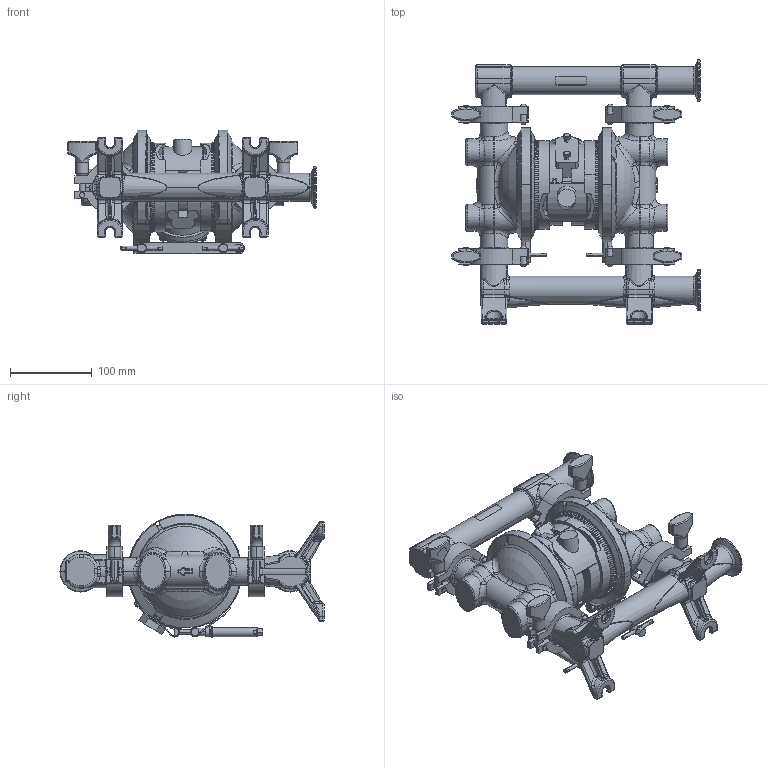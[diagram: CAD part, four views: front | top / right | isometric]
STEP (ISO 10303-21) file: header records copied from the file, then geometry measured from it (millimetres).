
FILE_DESCRIPTION((''),'2;1');
FILE_NAME('FD5111-EN-Z_PRT','2022-02-14T15:07:28',('qtmwp1'),(''),'CREO PARAMETRIC BY PTC INC, 2021072','CREO PARAMETRIC BY PTC INC, 2021072','');
FILE_SCHEMA(('CONFIG_CONTROL_DESIGN'));
Length unit declared in the file: inch
Products named in the file (1): FD5111-EN-Z_PRT
Bounding box: 303.28 x 322.82 x 151.46 mm (x, y, z)
Surface area: 499707.6 mm2 (no closed solid volume)
Topology: 0 solids, 94 shells, 2959 faces, 8432 edges, 5334 vertices
Faces by surface type: plane 864, torus 699, cylinder 662, bspline 422, cone 241, sphere 54, extrusion 9, revolution 8
Entity records: 123841 total; most frequent: CARTESIAN_POINT 52440, ORIENTED_EDGE 15463, DIRECTION 13963, EDGE_CURVE 8416, AXIS2_PLACEMENT_3D 5680, VERTEX_POINT 5334, CIRCLE 3152, EDGE_LOOP 2959
